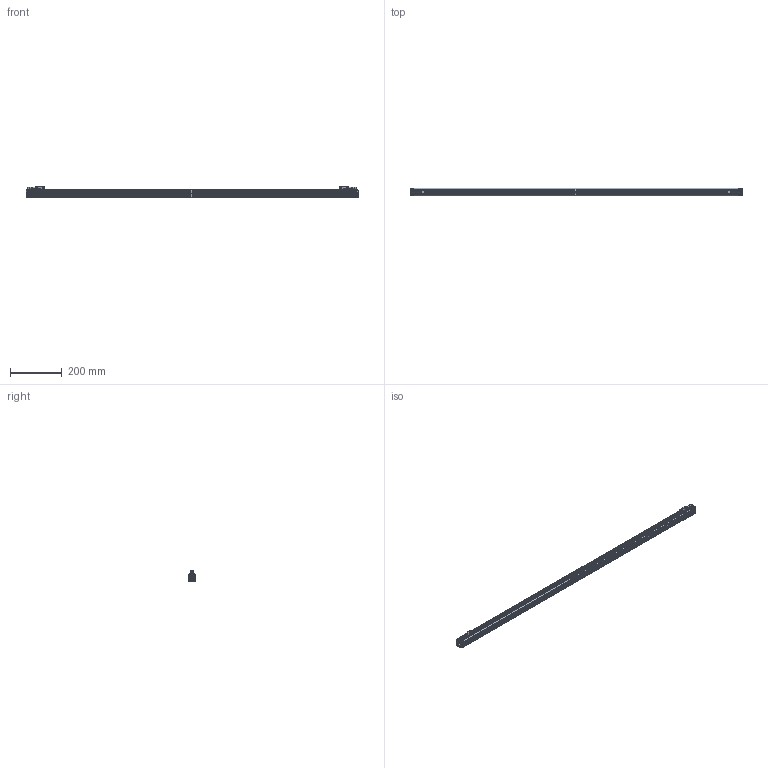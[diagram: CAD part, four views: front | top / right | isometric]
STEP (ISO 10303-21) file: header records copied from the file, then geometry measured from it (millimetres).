
FILE_DESCRIPTION((''),'2;1');
FILE_NAME('MV-LLDS-H-1400-30-W-PL_ASM','2024-04-08T11:12:55',('huguozhe'),(''),'CREO PARAMETRIC BY PTC INC, 2020044','CREO PARAMETRIC BY PTC INC, 2020044','');
FILE_SCHEMA(('AUTOMOTIVE_DESIGN { 1 0 10303 214 1 1 1 1 }'));
Length unit declared in the file: millimetre
Products named in the file (15): DE-15-001279; DE-15-001278_ASM; DE-15-000538; DE-15-000537_ASM; DE-12-002271; TIP-M3X4-4_5X5-SO-ET-07061033; DE-12-002271_ASM; DE-12-001587; SC-KM2X6-BNI-GB819; XIANLAN_HEAD; CABLE_HEAD; CABLE_HEAD_ASM_ASM; 190100852; SC-PM2X6B-JMP; MV-LLDS-H-1400-30-W-PL_ASM
Assembly tree (38 placements, depth 3):
  MV-LLDS-H-1400-30-W-PL_ASM
    DE-15-001278_ASM
      DE-15-001279
    DE-15-000537_ASM
      DE-15-000538
    DE-12-002271_ASM  x2
      DE-12-002271
      TIP-M3X4-4_5X5-SO-ET-07061033
    DE-12-001587
    SC-KM2X6-BNI-GB819  x8
    CABLE_HEAD_ASM_ASM  x2
      XIANLAN_HEAD
      CABLE_HEAD
    190100852  x8
    SC-PM2X6B-JMP  x8
Bounding box: 1278 x 30 x 42.65 mm (x, y, z)
Volume: 881403.2 mm3; surface area: 463521.3 mm2
Topology: 37 solids, 81 shells, 3256 faces, 8334 edges, 5230 vertices
Faces by surface type: plane 1590, cylinder 738, bspline 480, cone 362, torus 68, sphere 16, extrusion 2
Entity records: 50175 total; most frequent: CARTESIAN_POINT 11833, ORIENTED_EDGE 6472, DIRECTION 6251, EDGE_CURVE 3276, AXIS2_PLACEMENT_3D 2109, VERTEX_POINT 2098, VECTOR 2033, LINE 2032
